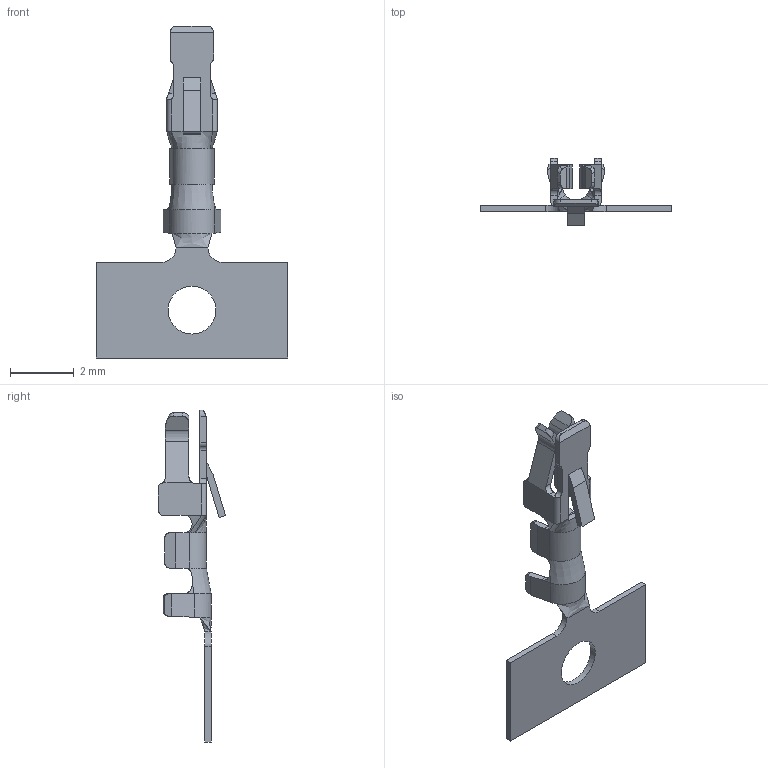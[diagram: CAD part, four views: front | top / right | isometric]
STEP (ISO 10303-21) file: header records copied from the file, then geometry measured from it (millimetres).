
FILE_DESCRIPTION (( 'STEP AP203' ), '1' );
FILE_NAME ('GT-A2009TF-PBT1.STEP', '2025-12-28T05:42:20', ( '' ), ( '' ), 'SwSTEP 2.0', 'SolidWorks 2020', '' );
FILE_SCHEMA (( 'CONFIG_CONTROL_DESIGN' ));
Length unit declared in the file: millimetre
Products named in the file (1): GT-A2009TF-PBT1
Bounding box: 6 x 2.1 x 10.4 mm (x, y, z)
Volume: 7.1 mm3; surface area: 84.7 mm2
Topology: 1 solids, 1 shells, 426 faces, 1168 edges, 763 vertices
Faces by surface type: plane 275, bspline 97, cylinder 54
Entity records: 18065 total; most frequent: CARTESIAN_POINT 7907, ORIENTED_EDGE 2336, DIRECTION 1637, EDGE_CURVE 1168, VECTOR 873, LINE 873, VERTEX_POINT 763, EDGE_LOOP 449
